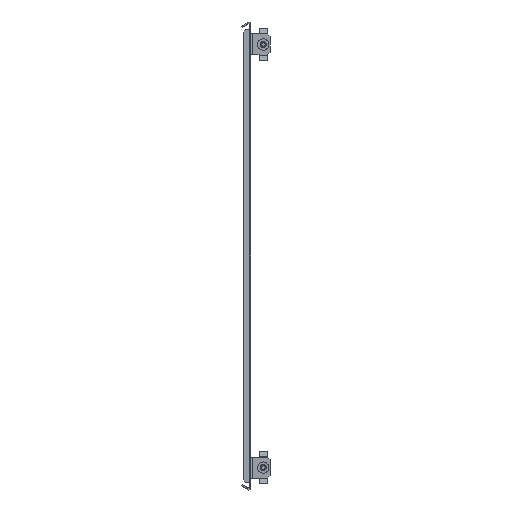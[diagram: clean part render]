
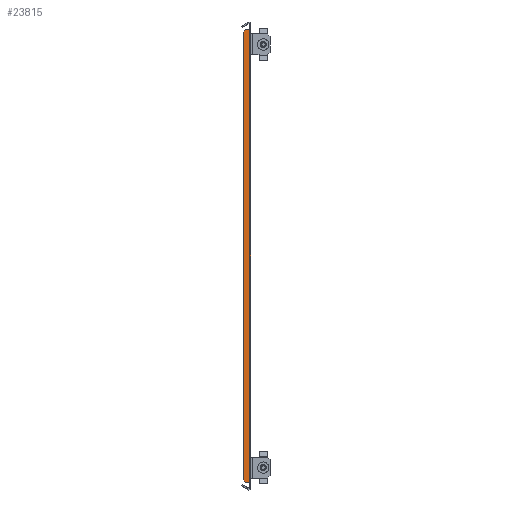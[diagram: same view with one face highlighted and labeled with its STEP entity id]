
A CAD part, front view. The second image highlights one B-rep face of the part: STEP entity #23815.
In plain terms, the highlighted planar face has unit normal (0, -1, 0).
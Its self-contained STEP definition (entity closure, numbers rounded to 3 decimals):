
#56 = EDGE_CURVE ( 'NONE', #18471, #14688, #4648, .T. ) ;
#603 = VECTOR ( 'NONE', #16214, 1000. ) ;
#973 = VECTOR ( 'NONE', #17685, 1000. ) ;
#1074 = LINE ( 'NONE', #25658, #2883 ) ;
#1638 = VECTOR ( 'NONE', #13893, 1000. ) ;
#1643 = LINE ( 'NONE', #29067, #9617 ) ;
#1724 = DIRECTION ( 'NONE',  ( 0., 0., 1. ) ) ;
#2263 = ORIENTED_EDGE ( 'NONE', *, *, #31125, .F. ) ;
#2326 = DIRECTION ( 'NONE',  ( 0., 1., 0. ) ) ;
#2689 = EDGE_CURVE ( 'NONE', #32526, #18471, #14446, .T. ) ;
#2827 = CARTESIAN_POINT ( 'NONE',  ( 0., -253., -240.897 ) ) ;
#2883 = VECTOR ( 'NONE', #12115, 1000. ) ;
#3011 = LINE ( 'NONE', #2827, #1638 ) ;
#3087 = EDGE_CURVE ( 'NONE', #32260, #10691, #13710, .T. ) ;
#3185 = ORIENTED_EDGE ( 'NONE', *, *, #3087, .T. ) ;
#3498 = VECTOR ( 'NONE', #8246, 1000. ) ;
#3517 = CARTESIAN_POINT ( 'NONE',  ( 0., -253., 240.897 ) ) ;
#3556 = CARTESIAN_POINT ( 'NONE',  ( 0., -253., 213.75 ) ) ;
#4097 = LINE ( 'NONE', #4276, #22831 ) ;
#4230 = CARTESIAN_POINT ( 'NONE',  ( 0., -253., 0. ) ) ;
#4256 = VERTEX_POINT ( 'NONE', #18541 ) ;
#4276 = CARTESIAN_POINT ( 'NONE',  ( 0., -253., 240.897 ) ) ;
#4648 = LINE ( 'NONE', #32399, #13554 ) ;
#4663 = DIRECTION ( 'NONE',  ( 0., 0., 1. ) ) ;
#5352 = CARTESIAN_POINT ( 'NONE',  ( 0., -253., 0. ) ) ;
#5359 = CARTESIAN_POINT ( 'NONE',  ( -8., -253., -237.897 ) ) ;
#6747 = DIRECTION ( 'NONE',  ( 1., 0., 0. ) ) ;
#7223 = LINE ( 'NONE', #4230, #28801 ) ;
#8064 = VECTOR ( 'NONE', #19632, 1000. ) ;
#8246 = DIRECTION ( 'NONE',  ( 0., 0., -1. ) ) ;
#8626 = EDGE_CURVE ( 'NONE', #14688, #34910, #3011, .T. ) ;
#9122 = CARTESIAN_POINT ( 'NONE',  ( 0., -253., 0. ) ) ;
#9617 = VECTOR ( 'NONE', #4663, 1000. ) ;
#9947 = ORIENTED_EDGE ( 'NONE', *, *, #33055, .T. ) ;
#10691 = VERTEX_POINT ( 'NONE', #22080 ) ;
#11217 = FACE_OUTER_BOUND ( 'NONE', #12133, .T. ) ;
#12115 = DIRECTION ( 'NONE',  ( 0., 0., 1. ) ) ;
#12133 = EDGE_LOOP ( 'NONE', ( #12938, #17272, #3185, #17044, #28356, #21064, #2263, #9947, #30381, #16612 ) ) ;
#12938 = ORIENTED_EDGE ( 'NONE', *, *, #8626, .T. ) ;
#12939 = EDGE_CURVE ( 'NONE', #10691, #19384, #33510, .T. ) ;
#13202 = DIRECTION ( 'NONE',  ( 0., 0., -1. ) ) ;
#13554 = VECTOR ( 'NONE', #18916, 1000. ) ;
#13710 = LINE ( 'NONE', #16375, #603 ) ;
#13893 = DIRECTION ( 'NONE',  ( 1., 0., 0. ) ) ;
#14274 = LINE ( 'NONE', #25146, #8064 ) ;
#14446 = LINE ( 'NONE', #16112, #3498 ) ;
#14688 = VERTEX_POINT ( 'NONE', #16347 ) ;
#15329 = CARTESIAN_POINT ( 'NONE',  ( 0., -253., 236.095 ) ) ;
#15798 = CARTESIAN_POINT ( 'NONE',  ( -8., -253., 237.897 ) ) ;
#16112 = CARTESIAN_POINT ( 'NONE',  ( -8., -253., 0. ) ) ;
#16214 = DIRECTION ( 'NONE',  ( 0., 0., 1. ) ) ;
#16347 = CARTESIAN_POINT ( 'NONE',  ( -5., -253., -240.897 ) ) ;
#16375 = CARTESIAN_POINT ( 'NONE',  ( 0., -253., 0. ) ) ;
#16612 = ORIENTED_EDGE ( 'NONE', *, *, #56, .T. ) ;
#17044 = ORIENTED_EDGE ( 'NONE', *, *, #12939, .T. ) ;
#17250 = VERTEX_POINT ( 'NONE', #3517 ) ;
#17272 = ORIENTED_EDGE ( 'NONE', *, *, #31101, .T. ) ;
#17380 = EDGE_CURVE ( 'NONE', #19384, #26125, #7223, .T. ) ;
#17685 = DIRECTION ( 'NONE',  ( 0., 0., 1. ) ) ;
#18317 = EDGE_CURVE ( 'NONE', #26125, #17250, #1643, .T. ) ;
#18471 = VERTEX_POINT ( 'NONE', #5359 ) ;
#18541 = CARTESIAN_POINT ( 'NONE',  ( -5., -253., 240.897 ) ) ;
#18916 = DIRECTION ( 'NONE',  ( 0.707, 0., -0.707 ) ) ;
#19260 = PLANE ( 'NONE',  #19556 ) ;
#19384 = VERTEX_POINT ( 'NONE', #3556 ) ;
#19556 = AXIS2_PLACEMENT_3D ( 'NONE', #5352, #2326, #13202 ) ;
#19632 = DIRECTION ( 'NONE',  ( -0.707, 0., -0.707 ) ) ;
#21064 = ORIENTED_EDGE ( 'NONE', *, *, #18317, .T. ) ;
#22080 = CARTESIAN_POINT ( 'NONE',  ( 0., -253., -213.75 ) ) ;
#22831 = VECTOR ( 'NONE', #6747, 1000. ) ;
#23815 = ADVANCED_FACE ( 'NONE', ( #11217 ), #19260, .F. ) ;
#25146 = CARTESIAN_POINT ( 'NONE',  ( -122.948, -253., 122.948 ) ) ;
#25658 = CARTESIAN_POINT ( 'NONE',  ( 0., -253., 0. ) ) ;
#26125 = VERTEX_POINT ( 'NONE', #15329 ) ;
#27746 = CARTESIAN_POINT ( 'NONE',  ( 0., -253., -236.095 ) ) ;
#28356 = ORIENTED_EDGE ( 'NONE', *, *, #17380, .T. ) ;
#28801 = VECTOR ( 'NONE', #1724, 1000. ) ;
#29067 = CARTESIAN_POINT ( 'NONE',  ( 0., -253., 0. ) ) ;
#30381 = ORIENTED_EDGE ( 'NONE', *, *, #2689, .T. ) ;
#30943 = CARTESIAN_POINT ( 'NONE',  ( 0., -253., -240.897 ) ) ;
#31101 = EDGE_CURVE ( 'NONE', #34910, #32260, #1074, .T. ) ;
#31125 = EDGE_CURVE ( 'NONE', #4256, #17250, #4097, .T. ) ;
#32260 = VERTEX_POINT ( 'NONE', #27746 ) ;
#32399 = CARTESIAN_POINT ( 'NONE',  ( -122.948, -253., -122.948 ) ) ;
#32526 = VERTEX_POINT ( 'NONE', #15798 ) ;
#33055 = EDGE_CURVE ( 'NONE', #4256, #32526, #14274, .T. ) ;
#33510 = LINE ( 'NONE', #9122, #973 ) ;
#34910 = VERTEX_POINT ( 'NONE', #30943 ) ;
